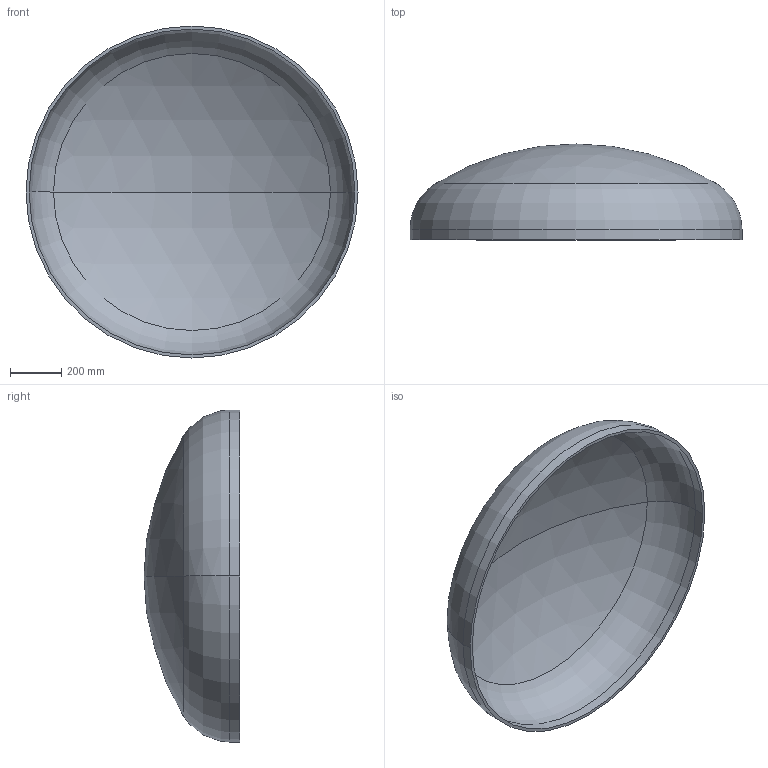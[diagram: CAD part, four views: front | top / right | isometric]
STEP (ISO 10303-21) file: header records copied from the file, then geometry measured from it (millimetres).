
FILE_DESCRIPTION (( 'STEP AP203' ), '1' );
FILE_NAME ('DIN 28013 Korbbogenform_-_Boden DIN 28013 - 1300 x 40 - I - s=12.step', '2016-07-01T09:43:10', ( '' ), ( '' ), 'SwSTEP 2.0', 'SolidWorks 2013', '' );
FILE_SCHEMA (( 'CONFIG_CONTROL_DESIGN' ));
Length unit declared in the file: millimetre
Products named in the file (1): DIN 28013 Korbbogenform_-_Boden DIN 28013 - 1300 x 40 - I - s=12
Bounding box: 1300 x 375.23 x 1300 mm (x, y, z)
Volume: 23730248.3 mm3; surface area: 4003898 mm2
Topology: 1 solids, 1 shells, 13 faces, 24 edges, 14 vertices
Faces by surface type: torus 4, cylinder 4, sphere 4, plane 1
Entity records: 407 total; most frequent: DIRECTION 72, CARTESIAN_POINT 52, ORIENTED_EDGE 48, AXIS2_PLACEMENT_3D 34, EDGE_CURVE 24, CIRCLE 20, EDGE_LOOP 14, VERTEX_POINT 14
